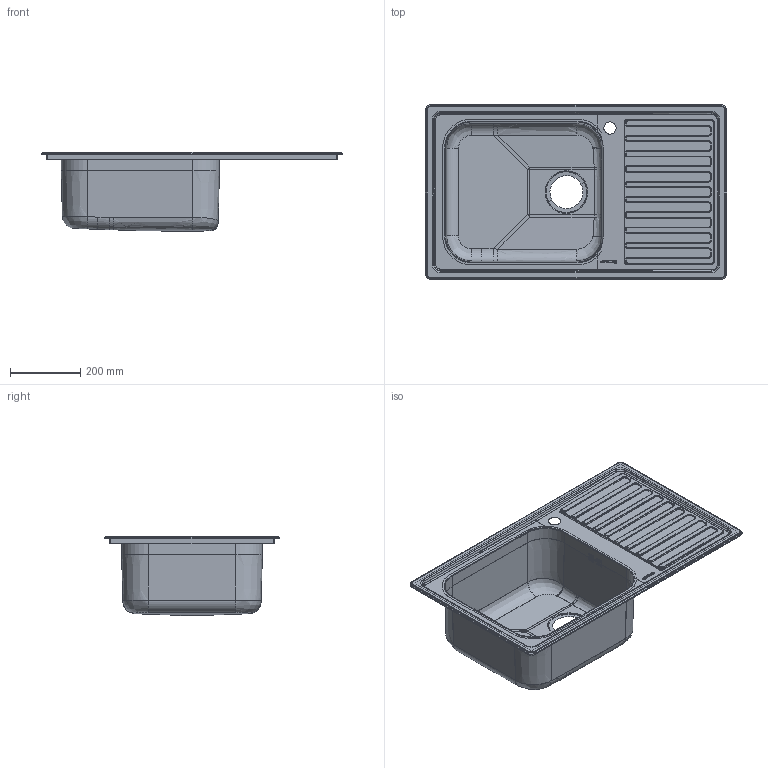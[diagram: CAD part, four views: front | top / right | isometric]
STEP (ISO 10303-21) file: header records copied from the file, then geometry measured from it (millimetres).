
FILE_DESCRIPTION(('CATIA V5 STEP Exchange'),'2;1');
FILE_NAME('\\sr02\Data User\LinoP\Documents\Cronogramma\718\LG861D-2.stp','2016-12-12T13:23:15+00:00',('none'),('none'),'CATIA Version 5-6 Release 2014','CATIA V5 STEP AP203','none');
FILE_SCHEMA(('CONFIG_CONTROL_DESIGN'));
Length unit declared in the file: millimetre
Products named in the file (1): Product2
Assembly tree (3 placements, depth 2):
  Product2
    #57
    #17216
    #26238
Bounding box: 860 x 500 x 227.31 mm (x, y, z)
Volume: 564151.4 mm3; surface area: 1703976.7 mm2
Topology: 13 solids, 13 shells, 1064 faces, 2708 edges, 1655 vertices
Faces by surface type: plane 435, cylinder 321, torus 212, bspline 48, cone 40, sphere 8
Entity records: 35661 total; most frequent: CARTESIAN_POINT 11139, ORIENTED_EDGE 5396, DIRECTION 4349, EDGE_CURVE 2690, AXIS2_PLACEMENT_3D 1819, VERTEX_POINT 1647, VECTOR 1579, LINE 1579
